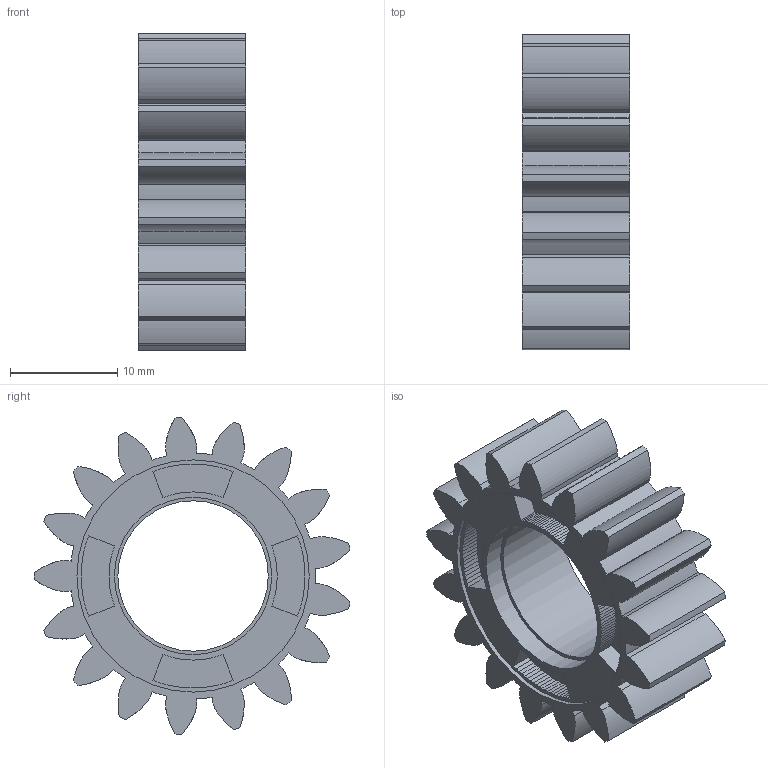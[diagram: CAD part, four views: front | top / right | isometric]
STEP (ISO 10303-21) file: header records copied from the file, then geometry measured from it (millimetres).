
FILE_DESCRIPTION(('Open CASCADE Model'),'2;1');
FILE_NAME('B3_R12_free_17T_end_face_windows','2026-09-28T18:17:11',( 'Author'),('Open CASCADE'),'Open CASCADE STEP processor 7.9', 'build123d','Unknown');
FILE_SCHEMA(('AUTOMOTIVE_DESIGN { 1 0 10303 214 1 1 1 1 }'));
Length unit declared in the file: millimetre
Products named in the file (1): B3_R12_free_17T_end_face_windows
Bounding box: 10 x 29.5 x 29.63 mm (x, y, z)
Volume: 3621.1 mm3; surface area: 2989.2 mm2
Topology: 1 solids, 1 shells, 281 faces, 819 edges, 546 vertices
Faces by surface type: plane 210, cylinder 37, extrusion 34
Full cylindrical faces by diameter (mm): 14.05 x1, 14.7 x1, 21.7 x1
Entity records: 26371 total; most frequent: CARTESIAN_POINT 10761, DIRECTION 2589, VECTOR 1871, LINE 1837, ORIENTED_EDGE 1638, PCURVE 1638, DEFINITIONAL_REPRESENTATION 1638, EDGE_CURVE 819
